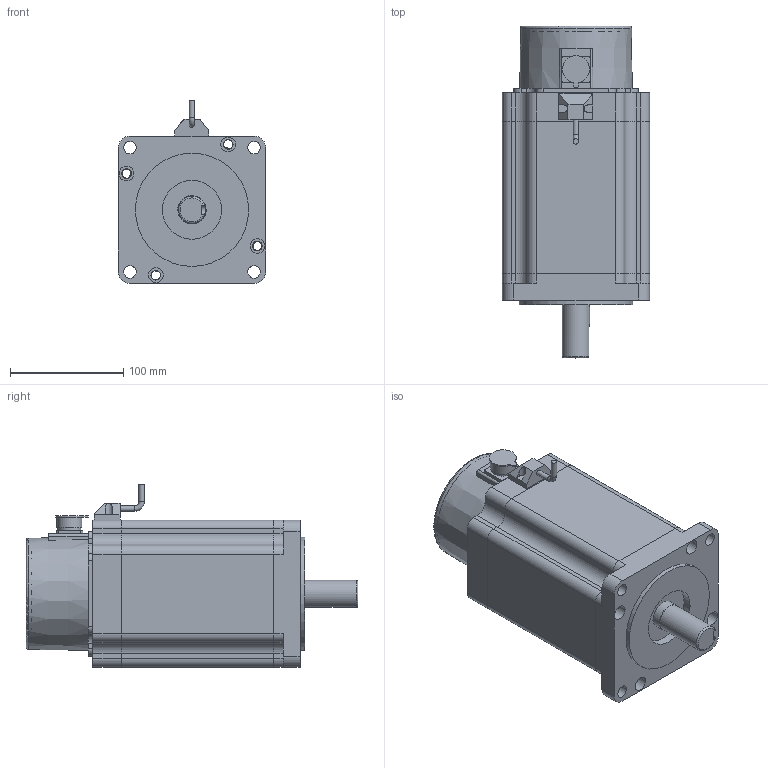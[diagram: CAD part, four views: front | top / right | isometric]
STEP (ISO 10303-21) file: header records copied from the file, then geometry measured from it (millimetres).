
FILE_DESCRIPTION(/* description */ (''),/* implementation_level */ '2;1');
FILE_NAME(/* name */ '130BYG350B.stp',/* time_stamp */ '2024-08-16T15:51:34+08:00',/* author */ (''),/* organization */ (''),/* preprocessor_version */ 'ST-DEVELOPER v18.1',/* originating_system */ 'SIEMENS PLM Software NX 2000',/* authorisation */ '');
FILE_SCHEMA (('AUTOMOTIVE_DESIGN { 1 0 10303 214 3 1 1 1 }'));
Length unit declared in the file: millimetre
Products named in the file (1): 925032A4A3696v2x
Bounding box: 130 x 293 x 161.44 mm (x, y, z)
Volume: 2801711.9 mm3; surface area: 288525.7 mm2
Topology: 9 solids, 9 shells, 414 faces, 1174 edges, 791 vertices
Faces by surface type: plane 301, cylinder 107, torus 4, cone 2
Full cylindrical faces by diameter (mm): 3 x4, 4.8 x2, 6.5 x4, 7 x1, 8 x4, 8.5 x12, 11 x4, 13 x4, 16.5 x1, 20.196 x2, 22.032 x1, 24 x1, 24.7 x1, 25 x1, 52 x1, 100 x1
Entity records: 13510 total; most frequent: CARTESIAN_POINT 2572, ORIENTED_EDGE 2176, DIRECTION 2125, EDGE_CURVE 1088, LINE 863, VECTOR 863, VERTEX_POINT 754, EDGE_LOOP 632
